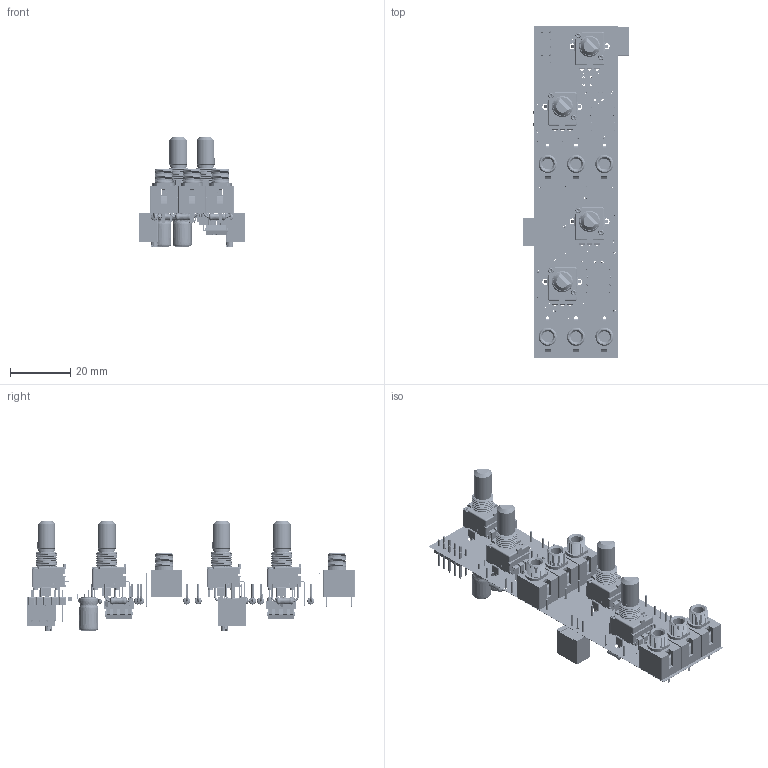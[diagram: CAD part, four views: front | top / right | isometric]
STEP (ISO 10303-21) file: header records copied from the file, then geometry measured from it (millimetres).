
FILE_DESCRIPTION(('Electronic assembly'),'2;1');
FILE_NAME('Board','2018-04-23T18:25:21',('An Author'),('A Company'), 'Open CASCADE STEP processor 6.8','horizon EDA','Unknown');
FILE_SCHEMA(('AUTOMOTIVE_DESIGN_CC2 { 1 2 10303 214 -1 1 5 4 }'));
Length unit declared in the file: millimetre
Products named in the file (78): Open CASCADE STEP translator 6.8 2; COMPOUND; Open CASCADE STEP translator 6.8 2.2; SOLID; Open CASCADE STEP translator 6.8 2.3; Open CASCADE STEP translator 6.8 2.4; Open CASCADE STEP translator 6.8 2.5; Open CASCADE STEP translator 6.8 2.6; Open CASCADE STEP translator 6.8 2.7; Open CASCADE STEP translator 6.8 2.8; Open CASCADE STEP translator 6.8 2.9; Open CASCADE STEP translator 6.8 2.10; Open CASCADE STEP translator 6.8 2.11; Open CASCADE STEP translator 6.8 2.12; Open CASCADE STEP translator 6.8 2.13; Open CASCADE STEP translator 6.8 2.14; Open CASCADE STEP translator 6.8 2.15; Open CASCADE STEP translator 6.8 2.16; Open CASCADE STEP translator 6.8 2.17; Open CASCADE STEP translator 6.8 2.18; Open CASCADE STEP translator 6.8 2.19; Open CASCADE STEP translator 6.8 2.20; Open CASCADE STEP translator 6.8 2.21; Open CASCADE STEP translator 6.8 2.22; Open CASCADE STEP translator 6.8 2.23; Open CASCADE STEP translator 6.8 2.24; Open CASCADE STEP translator 6.8 2.25; Open CASCADE STEP translator 6.8 2.26; Open CASCADE STEP translator 6.8 2.27; Open CASCADE STEP translator 6.8 2.28; Open CASCADE STEP translator 6.8 2.29; Open CASCADE STEP translator 6.8 2.30; Open CASCADE STEP translator 6.8 2.31; Open CASCADE STEP translator 6.8 2.32; Open CASCADE STEP translator 6.8 2.33; Open CASCADE STEP translator 6.8 2.34; Open CASCADE STEP translator 6.8 2.35; Open CASCADE STEP translator 6.8 2.36; Open CASCADE STEP translator 6.8 2.37; Open CASCADE STEP translator 6.8 2.38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
Assembly tree (77 placements, depth 3):
  Open CASCADE STEP translator 6.8 2
    COMPOUND
    Open CASCADE STEP translator 6.8 2.2
      SOLID
    Open CASCADE STEP translator 6.8 2.3
      COMPOUND
    Open CASCADE STEP translator 6.8 2.4
      COMPOUND
    Open CASCADE STEP translator 6.8 2.5
      COMPOUND
    Open CASCADE STEP translator 6.8 2.6
      COMPOUND
    Open CASCADE STEP translator 6.8 2.7
      COMPOUND
    Open CASCADE STEP translator 6.8 2.8
      COMPOUND
    Open CASCADE STEP translator 6.8 2.9
      COMPOUND
    Open CASCADE STEP translator 6.8 2.10
      COMPOUND
    Open CASCADE STEP translator 6.8 2.11
      COMPOUND
    Open CASCADE STEP translator 6.8 2.12
      SOLID
    Open CASCADE STEP translator 6.8 2.13
      COMPOUND
    Open CASCADE STEP translator 6.8 2.14
      SOLID
    Open CASCADE STEP translator 6.8 2.15
      COMPOUND
    Open CASCADE STEP translator 6.8 2.16
      COMPOUND
    Open CASCADE STEP translator 6.8 2.17
      COMPOUND
    Open CASCADE STEP translator 6.8 2.18
      COMPOUND
    Open CASCADE STEP translator 6.8 2.19
      COMPOUND
    Open CASCADE STEP translator 6.8 2.20
      COMPOUND
    Open CASCADE STEP translator 6.8 2.21
      COMPOUND
    Open CASCADE STEP translator 6.8 2.22
      COMPOUND
    Open CASCADE STEP translator 6.8 2.23
      COMPOUND
    Open CASCADE STEP translator 6.8 2.24
      COMPOUND
    Open CASCADE STEP translator 6.8 2.25
      COMPOUND
    Open CASCADE STEP translator 6.8 2.26
      COMPOUND
    Open CASCADE STEP translator 6.8 2.27
      COMPOUND
    Open CASCADE STEP translator 6.8 2.28
      COMPOUND
    Open CASCADE STEP translator 6.8 2.29
      COMPOUND
    Open CASCADE STEP translator 6.8 2.30
      COMPOUND
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Bounding box: 35.14 x 110 x 36.26 mm (x, y, z)
Volume: 3514.8 mm3; surface area: 26080.8 mm2
Topology: 42 solids, 3294 shells, 6308 faces, 22358 edges, 19046 vertices
Faces by surface type: bspline 2672, plane 2516, cylinder 988, cone 108, torus 16, sphere 8
Full cylindrical faces by diameter (mm): 0.2 x40, 0.508 x32, 0.7 x6, 0.75 x12, 0.8 x42, 0.85 x2, 1 x10, 1.1 x12, 1.2 x18, 1.524 x16, 1.724 x16, 2 x8
Entity records: 865625 total; most frequent: CARTESIAN_POINT 522944, DIRECTION 41998, ORIENTED_EDGE 29432, PCURVE 29432, DEFINITIONAL_REPRESENTATION 29432, LINE 26884, VECTOR 26884, EDGE_CURVE 21982
